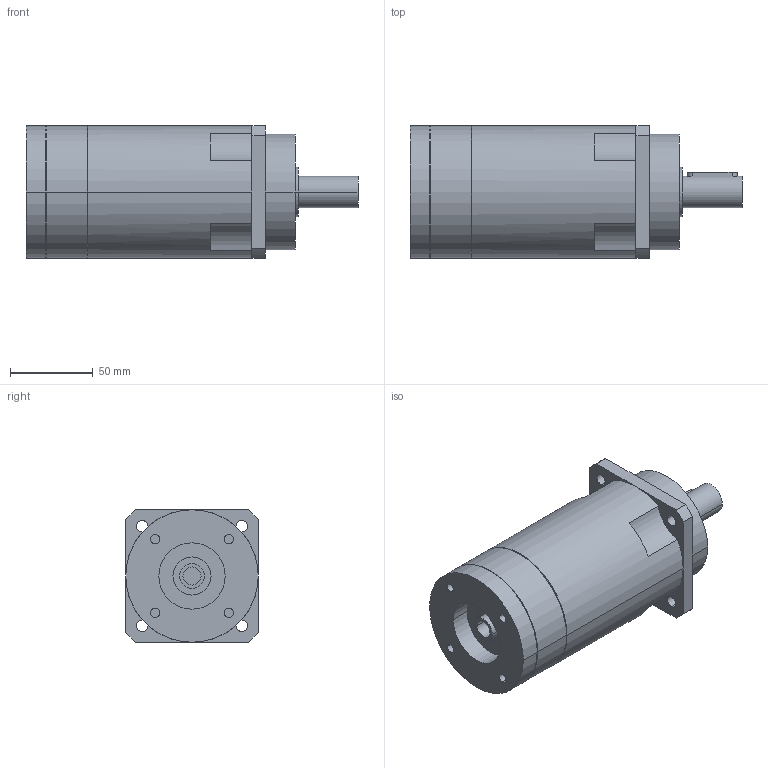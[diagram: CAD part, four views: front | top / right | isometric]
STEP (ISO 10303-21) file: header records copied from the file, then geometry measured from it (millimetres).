
FILE_DESCRIPTION(('CoCreate Modeling STEP Export'),'2;1');
FILE_NAME('GPR100_ig-48-64-80-100-120-144-180-216_19_B5_11_P17.stp','2014-08-26T11:53:31',(''),(''),'CoCreate Modeling STEP processor for AP214 (Solid Model)','CoCreate Modeling 16.00C 25-Feb-2009 (C) Parametric Technology GmbH','');
FILE_SCHEMA(('AUTOMOTIVE_DESIGN { 1 0 10303 214 1 1 1 1 }'));
Length unit declared in the file: millimetre
Products named in the file (2): GPR100_ig-48-64-80-100-120-144-180-216_19_B5_11_P17
Assembly tree (1 placements, depth 2):
  GPR100_ig-48-64-80-100-120-144-180-216_19_B5_11_P17
    GPR100_ig-48-64-80-100-120-144-180-216_19_B5_11_P17
Bounding box: 200.4 x 80 x 80 mm (x, y, z)
Volume: 789536.3 mm3; surface area: 61382.4 mm2
Topology: 1 solids, 1 shells, 96 faces, 250 edges, 172 vertices
Faces by surface type: cylinder 56, plane 34, cone 6
Entity records: 2609 total; most frequent: ORIENTED_EDGE 496, CARTESIAN_POINT 468, DIRECTION 376, EDGE_CURVE 248, VERTEX_POINT 172, AXIS2_PLACEMENT_3D 144, EDGE_LOOP 122, FACE_OUTER_BOUND 96
